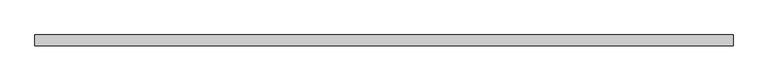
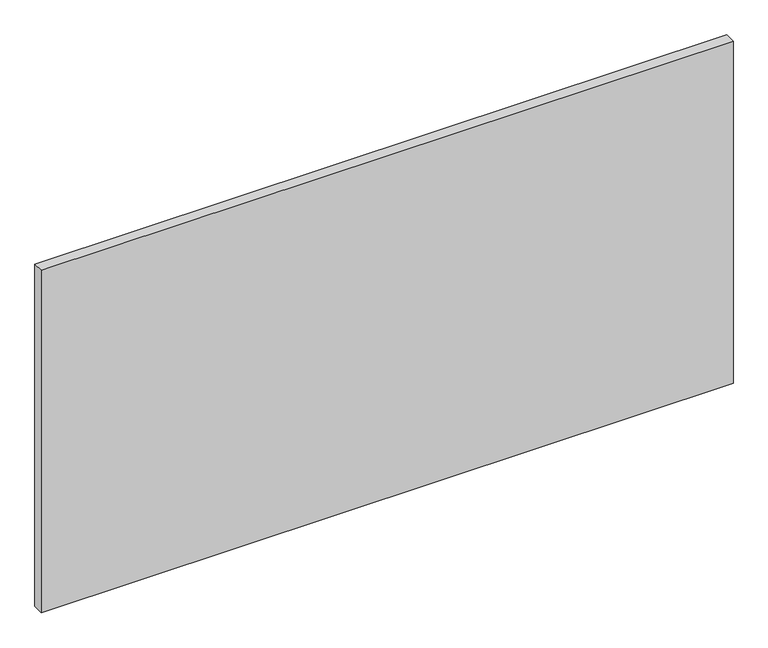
"""IFC4 building model written with IfcOpenShell, lengths in millimetres: plate geometry, Системная панель : ADSK_Cтеклопакет_25."""

from ifc_helpers import new_model, si_unit, origin, origin_with_axes, place, context, project, spatial, polyline, outline, extrude, source, transform, mapped, element, save


def plate_0c04f2eb(model_context):
    return source(origin(), model_context, "Body", "SweptSolid", [
        extrude(outline(polyline([(812.4684619, -12.5), (-812.4684619, -12.5), (-812.4684619, 12.5), (812.4684619, 12.5), (812.4684619, -12.5)])), origin_with_axes(), (0.0, 0.0, 1.0), 850.0),
    ])


if __name__ == "__main__":
    model = new_model("IFC4")
    model_context = context("Model", 3, world=origin())
    ifc_project = project(units=[si_unit("LENGTHUNIT", "METRE", prefix="MILLI")], contexts=[model_context])
    site = spatial("IfcSite", under=ifc_project)
    building = spatial("IfcBuilding", under=site)
    placement = place(None, origin())
    plate_shape = plate_0c04f2eb(model_context)
    element("IfcPlate", 1, ObjectType="Системная панель : ADSK_Cтеклопакет_25", at=placement, inside=building, context=model_context, shape_type="MappedRepresentation", body=[
        mapped(plate_shape, transform((0.0, 0.0, 0.0), x_axis=(1.0, 0.0, 0.0), y_axis=(0.0, 1.0, 0.0), z_axis=(0.0, 0.0, 1.0))),
    ])
    save(model, "model.ifc")
